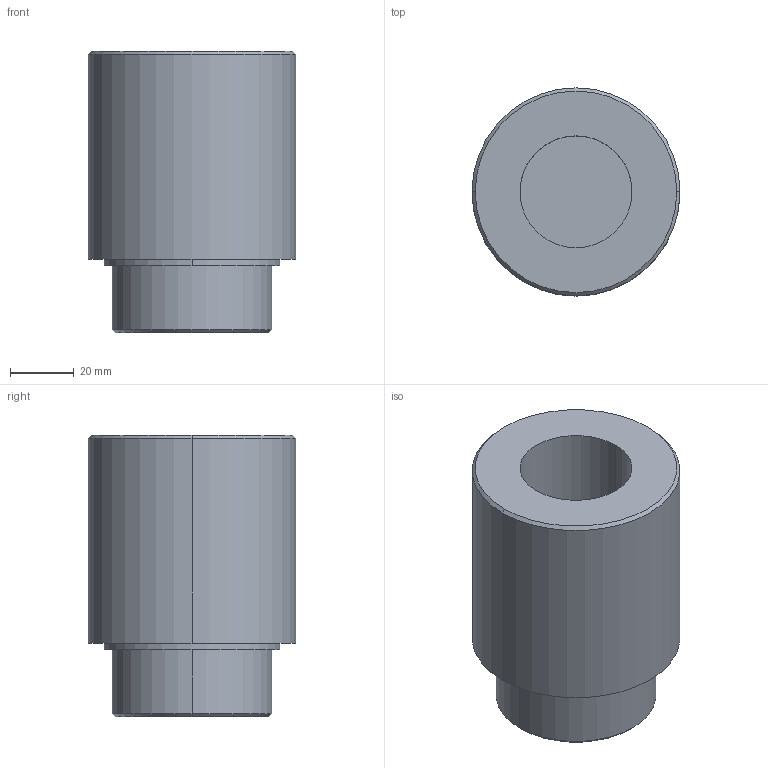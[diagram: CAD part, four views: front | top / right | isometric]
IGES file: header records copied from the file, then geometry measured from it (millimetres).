
Start section:  PTC IGES file: SC100.igs
Global section: file name: SC100.igs; native system: Pro/ENGINEER by Parametric Technology Corporation; preprocessor: 2009440; author: Owner; organization: Unknown; date: 20170406.153536; units: millimetre
Bounding box: 65 x 65 x 88 mm (x, y, z)
Volume: 227822.5 mm3; surface area: 27188.3 mm2
Topology: 1 solids, 1 shells, 17 faces, 32 edges, 20 vertices
Faces by surface type: revolution 12, bspline 5
